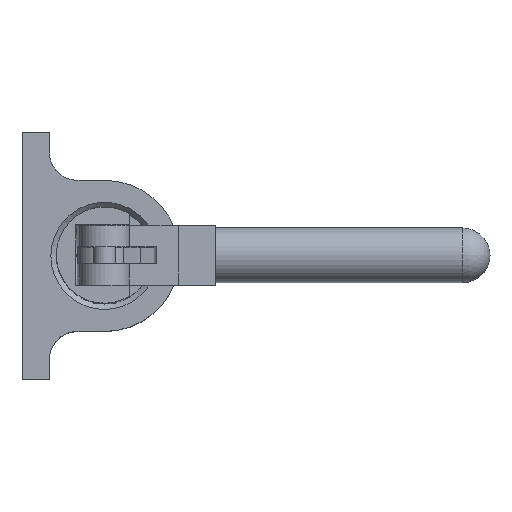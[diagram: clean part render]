
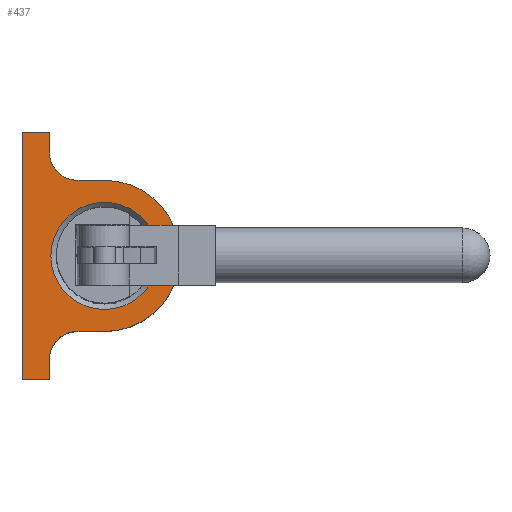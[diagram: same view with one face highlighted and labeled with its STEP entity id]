
A CAD part, top view. The second image highlights one B-rep face of the part: STEP entity #437.
In plain terms, the highlighted planar face has unit normal (0, 0, 1) as drawn and (0, 1, 0) by its records, which use the part's own axes.
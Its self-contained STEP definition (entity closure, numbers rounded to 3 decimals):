
#437=ADVANCED_FACE('',(#826,#827),#500,.T.);
#500=PLANE('',#2131);
#601=LINE('',#3476,#710);
#608=LINE('',#3493,#717);
#610=LINE('',#3499,#719);
#611=LINE('',#3502,#720);
#612=LINE('',#3504,#721);
#613=LINE('',#3506,#722);
#614=LINE('',#3508,#723);
#710=VECTOR('',#2594,1.);
#717=VECTOR('',#2609,1.);
#719=VECTOR('',#2615,1.);
#720=VECTOR('',#2618,1.);
#721=VECTOR('',#2619,1.);
#722=VECTOR('',#2620,1.);
#723=VECTOR('',#2621,1.);
#826=FACE_BOUND('',#1000,.T.);
#827=FACE_BOUND('',#1001,.T.);
#1000=EDGE_LOOP('',(#1404));
#1001=EDGE_LOOP('',(#1405,#1406,#1407,#1408,#1409,#1410,#1411,#1412,#1413,#1414));
#1404=ORIENTED_EDGE('',*,*,#1838,.T.);
#1405=ORIENTED_EDGE('',*,*,#1839,.T.);
#1406=ORIENTED_EDGE('',*,*,#1840,.T.);
#1407=ORIENTED_EDGE('',*,*,#1836,.F.);
#1408=ORIENTED_EDGE('',*,*,#1820,.T.);
#1409=ORIENTED_EDGE('',*,*,#1827,.F.);
#1410=ORIENTED_EDGE('',*,*,#1841,.F.);
#1411=ORIENTED_EDGE('',*,*,#1842,.T.);
#1412=ORIENTED_EDGE('',*,*,#1843,.T.);
#1413=ORIENTED_EDGE('',*,*,#1844,.F.);
#1414=ORIENTED_EDGE('',*,*,#1811,.T.);
#1608=VERTEX_POINT('',#3345);
#1609=VERTEX_POINT('',#3347);
#1613=VERTEX_POINT('',#3462);
#1614=VERTEX_POINT('',#3464);
#1618=VERTEX_POINT('',#3475);
#1625=VERTEX_POINT('',#3494);
#1626=VERTEX_POINT('',#3498);
#1627=VERTEX_POINT('',#3500);
#1628=VERTEX_POINT('',#3503);
#1629=VERTEX_POINT('',#3505);
#1630=VERTEX_POINT('',#3507);
#1811=EDGE_CURVE('',#1609,#1608,#1938,.T.);
#1820=EDGE_CURVE('',#1614,#1613,#1939,.T.);
#1827=EDGE_CURVE('',#1618,#1613,#601,.T.);
#1836=EDGE_CURVE('',#1614,#1625,#608,.T.);
#1838=EDGE_CURVE('',#1626,#1626,#1944,.T.);
#1839=EDGE_CURVE('',#1608,#1627,#610,.T.);
#1840=EDGE_CURVE('',#1627,#1625,#1945,.T.);
#1841=EDGE_CURVE('',#1628,#1618,#611,.T.);
#1842=EDGE_CURVE('',#1628,#1629,#612,.T.);
#1843=EDGE_CURVE('',#1629,#1630,#613,.T.);
#1844=EDGE_CURVE('',#1609,#1630,#614,.T.);
#1938=CIRCLE('',#2118,10.);
#1939=CIRCLE('',#2120,10.);
#1944=CIRCLE('',#2129,19.5);
#1945=CIRCLE('',#2130,27.5);
#2118=AXIS2_PLACEMENT_3D('',#3346,#2572,#2573);
#2120=AXIS2_PLACEMENT_3D('',#3463,#2582,#2583);
#2129=AXIS2_PLACEMENT_3D('',#3497,#2613,#2614);
#2130=AXIS2_PLACEMENT_3D('',#3501,#2616,#2617);
#2131=AXIS2_PLACEMENT_3D('',#3509,#2622,#2623);
#2572=DIRECTION('',(0.,-1.,0.));
#2573=DIRECTION('',(0.,0.,1.));
#2582=DIRECTION('',(0.,-1.,0.));
#2583=DIRECTION('',(0.,0.,1.));
#2594=DIRECTION('',(-1.,0.,0.));
#2609=DIRECTION('',(0.,0.,1.));
#2613=DIRECTION('',(0.,-1.,0.));
#2614=DIRECTION('',(0.,0.,1.));
#2615=DIRECTION('',(0.,0.,1.));
#2616=DIRECTION('',(0.,1.,0.));
#2617=DIRECTION('',(0.,0.,1.));
#2618=DIRECTION('',(0.,0.,1.));
#2619=DIRECTION('',(-1.,0.,0.));
#2620=DIRECTION('',(0.,0.,1.));
#2621=DIRECTION('',(-1.,0.,0.));
#2622=DIRECTION('',(0.,1.,0.));
#2623=DIRECTION('',(0.,0.,-1.));
#3345=CARTESIAN_POINT('',(117.5,45.,20.));
#3346=CARTESIAN_POINT('',(107.5,45.,20.));
#3347=CARTESIAN_POINT('',(107.5,45.,10.));
#3462=CARTESIAN_POINT('',(182.5,45.,10.));
#3463=CARTESIAN_POINT('',(182.5,45.,20.));
#3464=CARTESIAN_POINT('',(172.5,45.,20.));
#3475=CARTESIAN_POINT('',(190.,45.,10.));
#3476=CARTESIAN_POINT('',(172.5,45.,10.));
#3493=CARTESIAN_POINT('',(172.5,45.,10.));
#3494=CARTESIAN_POINT('',(172.5,45.,30.));
#3497=CARTESIAN_POINT('',(145.,45.,30.));
#3498=CARTESIAN_POINT('',(145.,45.,49.5));
#3499=CARTESIAN_POINT('',(117.5,45.,10.));
#3500=CARTESIAN_POINT('',(117.5,45.,30.));
#3501=CARTESIAN_POINT('',(145.,45.,30.));
#3502=CARTESIAN_POINT('',(190.,45.,0.));
#3503=CARTESIAN_POINT('',(190.,45.,0.));
#3504=CARTESIAN_POINT('',(145.,45.,0.));
#3505=CARTESIAN_POINT('',(100.,45.,0.));
#3506=CARTESIAN_POINT('',(100.,45.,0.));
#3507=CARTESIAN_POINT('',(100.,45.,10.));
#3508=CARTESIAN_POINT('',(117.5,45.,10.));
#3509=CARTESIAN_POINT('',(145.,45.,0.));
